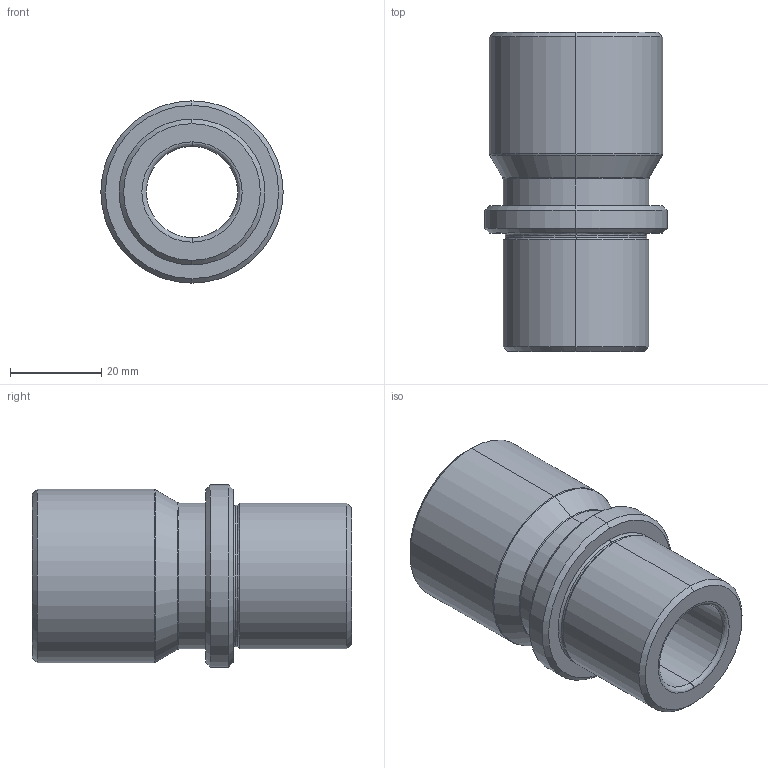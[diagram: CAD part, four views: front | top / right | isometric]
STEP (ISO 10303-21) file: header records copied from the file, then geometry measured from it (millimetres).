
FILE_DESCRIPTION( ( 'STEP AP203' ), '1' );
FILE_NAME( 'D:/Delta 3 D/D32/D32 - 20x26.step', '2002-12-31T23:33:24', ( ' ' ), ( ' ' ), 'XStep 1.0', ' ', ' ' );
FILE_SCHEMA( ( 'CONFIG_CONTROL_DESIGN' ) );
Length unit declared in the file: metre
Products named in the file (1): 1
Bounding box: 40 x 70 x 40 mm (x, y, z)
Volume: 46372 mm3; surface area: 14160.6 mm2
Topology: 1 solids, 1 shells, 38 faces, 76 edges, 42 vertices
Faces by surface type: revolution 22, bspline 16
Entity records: 1199 total; most frequent: CARTESIAN_POINT 429, ORIENTED_EDGE 152, DIRECTION 130, EDGE_CURVE 76, AXIS2_PLACEMENT_3D 43, EDGE_LOOP 42, VERTEX_POINT 42, CIRCLE 42
